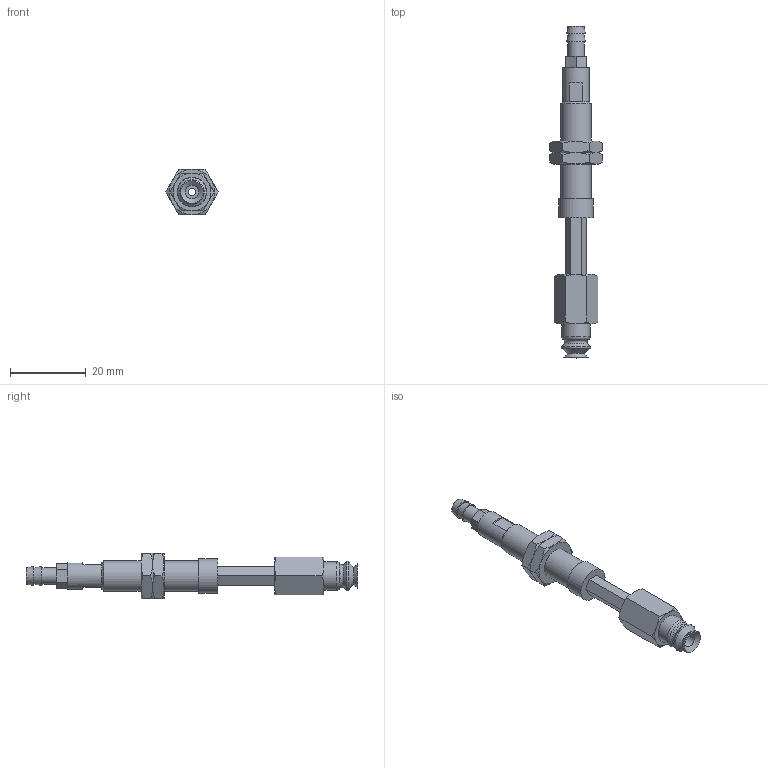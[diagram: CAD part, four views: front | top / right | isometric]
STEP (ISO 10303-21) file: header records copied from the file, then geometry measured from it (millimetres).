
FILE_DESCRIPTION(('STEP AP203'),'1');
FILE_NAME('-T.stp','2025-08-27T06:23:25',(' '),(' '),'Spatial InterOp 3D',' ',' ');
FILE_SCHEMA(('CONFIG_CONTROL_DESIGN'));
Length unit declared in the file: millimetre
Products named in the file (7): BNABPJTH-6-15-※-T; ADAPTER; NAPATH-10A-15--M; NAPJH-6-15-NUT; NAPJTH-6-15-FBODY; BPJG-6-※; T
Assembly tree (7 placements, depth 2):
  BNABPJTH-6-15-※-T
    ADAPTER
    NAPATH-10A-15--M
    NAPJH-6-15-NUT  x2
    NAPJTH-6-15-FBODY
    BPJG-6-※
    T
Bounding box: 13.86 x 87.5 x 12 mm (x, y, z)
Volume: 4013.1 mm3; surface area: 5057.9 mm2
Topology: 7 solids, 7 shells, 143 faces, 309 edges, 189 vertices
Faces by surface type: plane 63, cone 52, cylinder 17, torus 11
Full cylindrical faces by diameter (mm): 2 x2, 3 x1, 3.64 x1, 4 x2, 4.134 x1, 4.3 x1, 5 x1, 6 x2, 7 x1, 7.188 x2, 7.5 x1, 8 x1, 9 x1
Entity records: 3502 total; most frequent: CARTESIAN_POINT 774, DIRECTION 500, ORIENTED_EDGE 416, AXIS2_PLACEMENT_3D 212, EDGE_CURVE 208, EDGE_LOOP 182, VERTEX_POINT 150, FACE_OUTER_BOUND 147
